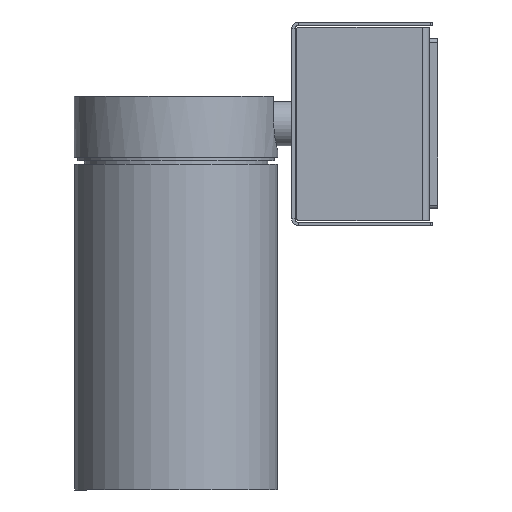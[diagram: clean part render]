
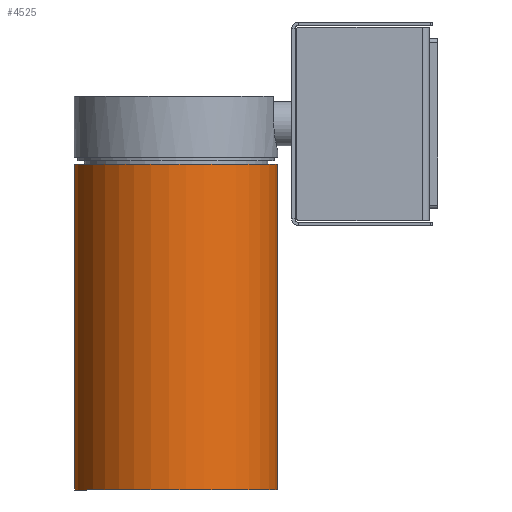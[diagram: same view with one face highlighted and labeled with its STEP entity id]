
A CAD part, left-side view. The second image highlights one B-rep face of the part: STEP entity #4525.
In plain terms, the highlighted cylindrical face has radius 30 mm (diameter 60 mm), a full revolution.
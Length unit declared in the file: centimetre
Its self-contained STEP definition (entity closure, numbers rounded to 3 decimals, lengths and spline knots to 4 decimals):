
#365=LINE('',#7157,#747);
#747=VECTOR('',#5707,3.);
#1063=CYLINDRICAL_SURFACE('',#4919,3.);
#1223=FACE_OUTER_BOUND('',#1511,.T.);
#1511=EDGE_LOOP('',(#3366,#3367,#3368,#3369));
#1781=CIRCLE('',#4918,3.);
#1782=CIRCLE('',#4920,3.);
#2045=VERTEX_POINT('',#7152);
#2046=VERTEX_POINT('',#7155);
#2523=EDGE_CURVE('',#2045,#2045,#1781,.T.);
#2524=EDGE_CURVE('',#2046,#2046,#1782,.T.);
#2525=EDGE_CURVE('',#2046,#2045,#365,.T.);
#3366=ORIENTED_EDGE('',*,*,#2524,.F.);
#3367=ORIENTED_EDGE('',*,*,#2525,.T.);
#3368=ORIENTED_EDGE('',*,*,#2523,.F.);
#3369=ORIENTED_EDGE('',*,*,#2525,.F.);
#4525=ADVANCED_FACE('',(#1223),#1063,.T.);
#4918=AXIS2_PLACEMENT_3D('',#7153,#5701,#5702);
#4919=AXIS2_PLACEMENT_3D('',#7154,#5703,#5704);
#4920=AXIS2_PLACEMENT_3D('',#7156,#5705,#5706);
#5701=DIRECTION('center_axis',(0.,0.,
-1.));
#5702=DIRECTION('ref_axis',(0.995,0.1,0.));
#5703=DIRECTION('center_axis',(0.,0.,
1.));
#5704=DIRECTION('ref_axis',(0.995,0.1,0.));
#5705=DIRECTION('center_axis',(0.,0.,
1.));
#5706=DIRECTION('ref_axis',(0.995,0.1,0.));
#5707=DIRECTION('',(0.,0.,-1.));
#7152=CARTESIAN_POINT('',(-8.4349,7.409,-10.79));
#7153=CARTESIAN_POINT('Origin',(-5.45,7.71,-10.79));
#7154=CARTESIAN_POINT('Origin',(-5.45,7.71,-5.99));
#7155=CARTESIAN_POINT('',(-8.4349,7.409,-1.19));
#7156=CARTESIAN_POINT('Origin',(-5.45,7.71,-1.19));
#7157=CARTESIAN_POINT('',(-8.4349,7.409,-5.99));
